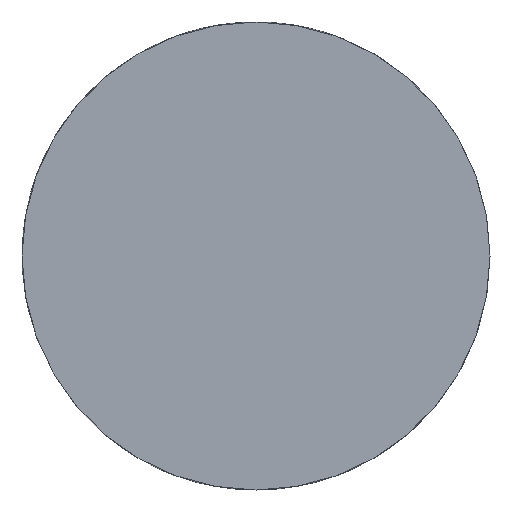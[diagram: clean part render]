
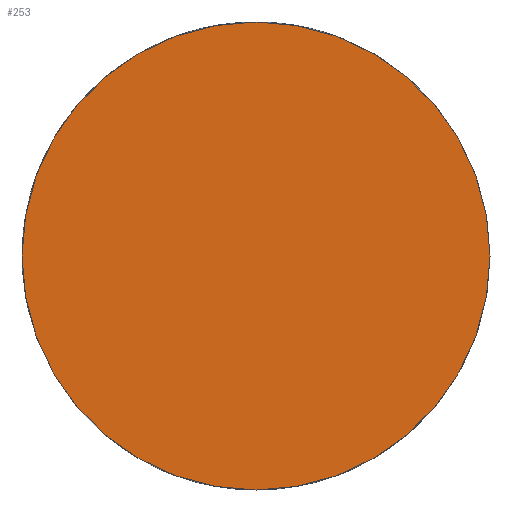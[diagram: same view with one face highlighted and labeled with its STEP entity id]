
A CAD part, left-side view. The second image highlights one B-rep face of the part: STEP entity #253.
In plain terms, the highlighted planar face has unit normal (-1, 0, 0).
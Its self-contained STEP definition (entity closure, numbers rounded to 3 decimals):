
#43=FACE_OUTER_BOUND('',#60,.T.);
#60=EDGE_LOOP('',(#221));
#105=CIRCLE('',#303,3.);
#128=VERTEX_POINT('',#490);
#160=EDGE_CURVE('',#128,#128,#105,.T.);
#221=ORIENTED_EDGE('',*,*,#160,.F.);
#239=PLANE('',#302);
#253=ADVANCED_FACE('',(#43),#239,.T.);
#302=AXIS2_PLACEMENT_3D('',#489,#367,#368);
#303=AXIS2_PLACEMENT_3D('',#491,#369,#370);
#367=DIRECTION('center_axis',(-1.,0.,0.));
#368=DIRECTION('ref_axis',(0.,0.,1.));
#369=DIRECTION('center_axis',(1.,0.,0.));
#370=DIRECTION('ref_axis',(0.,0.,-1.));
#489=CARTESIAN_POINT('Origin',(0.,3.,0.));
#490=CARTESIAN_POINT('',(0.,-3.,0.));
#491=CARTESIAN_POINT('Origin',(0.,0.,0.));
